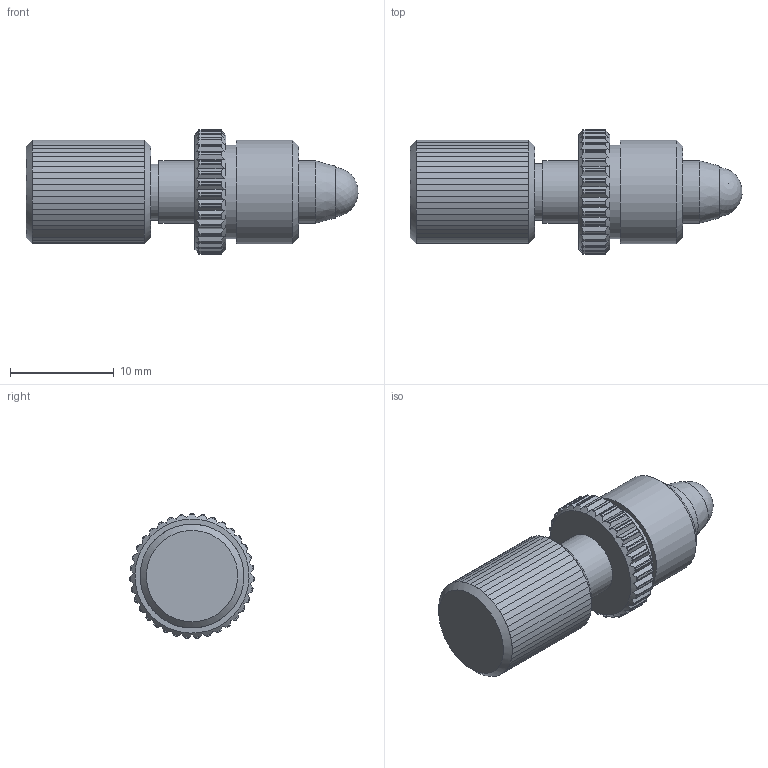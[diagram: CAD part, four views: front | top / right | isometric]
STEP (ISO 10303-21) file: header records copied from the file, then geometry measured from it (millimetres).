
FILE_DESCRIPTION(/* description */ (''),/* implementation_level */ '2;1');
FILE_NAME(/* name */ 'U:\KONSTRUKTORIAI\DOKUMENTACIJA\9\9S67\9S67M\step\9S67M.STEP',/* time_stamp */ '2016-12-23T08:10:14+02:00',/* author */ ('dsgn31'),/* organization */ (''),/* preprocessor_version */ 'ST-DEVELOPER v15.2',/* originating_system */ 'Autodesk Inventor 2014',/* authorisation */ '');
FILE_SCHEMA (('AUTOMOTIVE_DESIGN { 1 0 10303 214 3 1 1 }'));
Length unit declared in the file: inch
Products named in the file (1): 9S67M_Shrinkwrap_1
Bounding box: 31.98 x 12 x 11.99 mm (x, y, z)
Volume: 2012.1 mm3; surface area: 1184.2 mm2
Topology: 1 solids, 1 shells, 421 faces, 1033 edges, 620 vertices
Faces by surface type: plane 304, cylinder 110, cone 6, sphere 1
Full cylindrical faces by diameter (mm): 5.4 x1, 6 x2, 9 x1, 10 x1
Entity records: 12438 total; most frequent: CARTESIAN_POINT 2325, DIRECTION 2117, ORIENTED_EDGE 2024, EDGE_CURVE 1012, AXIS2_PLACEMENT_3D 823, VERTEX_POINT 611, LINE 471, VECTOR 471
